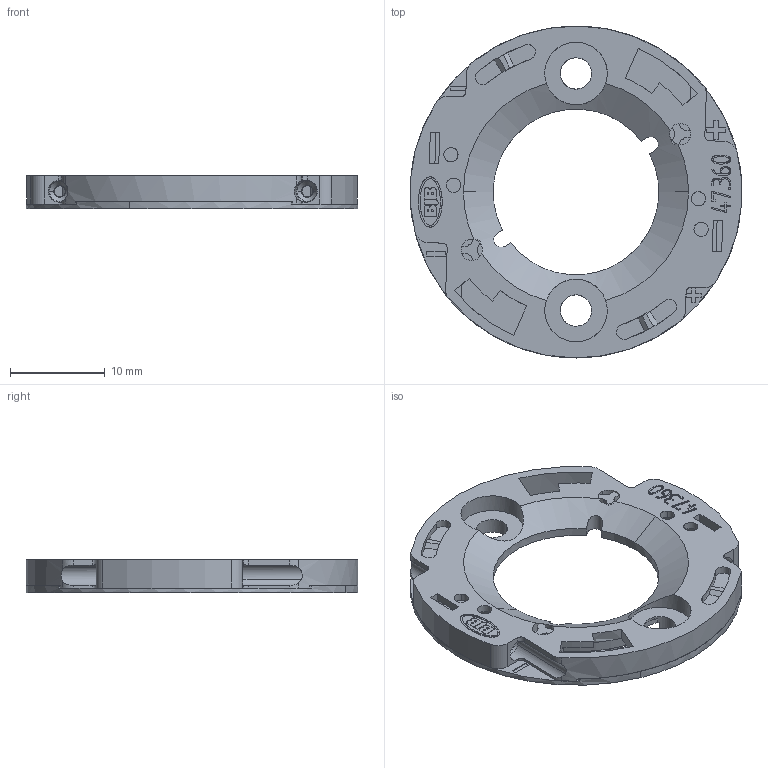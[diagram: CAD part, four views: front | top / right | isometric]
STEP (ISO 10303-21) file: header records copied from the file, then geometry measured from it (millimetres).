
FILE_DESCRIPTION(('CAx-IF Rec.Pracs.---Model Styling and Organization---1.2---2011-12-15','CAx-IF Rec.Pracs.---Geometric and Assembly Validation Properties---4.1---2014-06-16','CAx-IF Rec.Pracs.---PMI Polyline Presentation---2.0---2013-05-24'),'2;1');
FILE_NAME('01ZYR03Y08.stp','2018-04-05T08:07:07+02:00',(''),(''),'STEP Interface 4.1 Sp1 by CT CoreTechnologie','3D_Evolution4.1 Sp1 by CT CoreTechnologie','');
FILE_SCHEMA(('AUTOMOTIVE_DESIGN { 1 0 10303 214 1 1 1 1 }'));
Length unit declared in the file: millimetre
Products named in the file (3): 01Z-R03-08; 01Z-R00-07; 01Z-R05-02
Assembly tree (2 placements, depth 2):
  01Z-R03-08
    01Z-R00-07
    01Z-R05-02
Bounding box: 34.99 x 35 x 3.55 mm (x, y, z)
Volume: 1442.9 mm3; surface area: 3723 mm2
Topology: 4 solids, 4 shells, 568 faces, 1627 edges, 1090 vertices
Faces by surface type: plane 331, cylinder 185, bspline 52
Entity records: 24801 total; most frequent: CARTESIAN_POINT 5019, ORIENTED_EDGE 3254, DIRECTION 3072, EDGE_CURVE 1627, VECTOR 1094, LINE 1094, VERTEX_POINT 1090, AXIS2_PLACEMENT_3D 989
